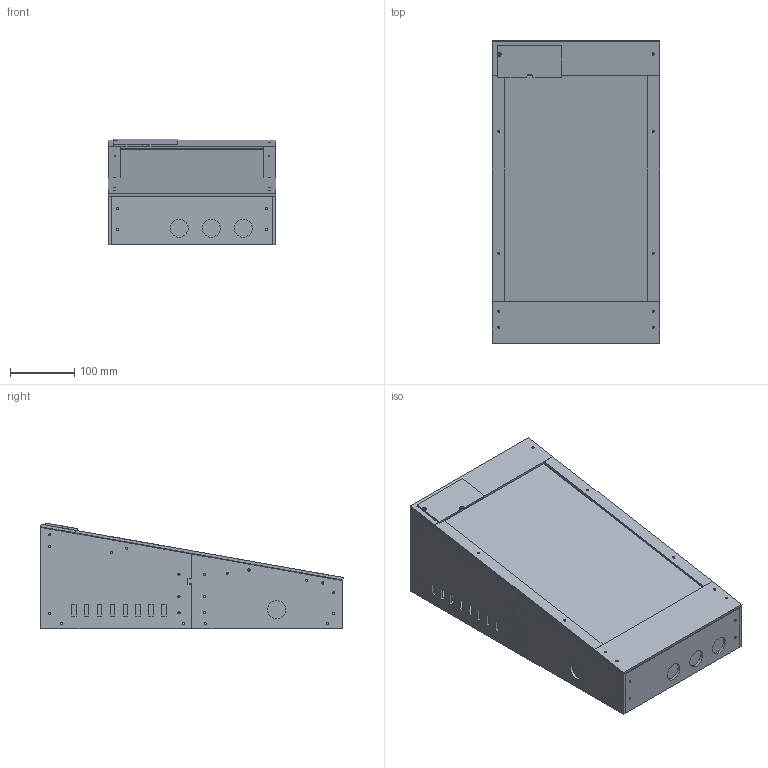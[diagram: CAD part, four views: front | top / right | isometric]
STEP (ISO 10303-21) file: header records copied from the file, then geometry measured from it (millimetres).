
FILE_DESCRIPTION(('Open CASCADE Model'),'2;1');
FILE_NAME('Open CASCADE Shape Model','2026-11-07T02:47:37',('Author'),( 'Open CASCADE'),'Open CASCADE STEP processor 7.8','Open CASCADE 7.8' ,'Unknown');
FILE_SCHEMA(('AUTOMOTIVE_DESIGN { 1 0 10303 214 1 1 1 1 }'));
Length unit declared in the file: millimetre
Products named in the file (55): Mini_VPin_Prototype_V1_7; left_front_wall; left_rear_wall; right_front_wall; right_rear_wall; front_button_panel; rear_vent_panel; corner_left_front_24; corner_left_front_56; corner_left_rear_24; corner_left_rear_128; corner_right_front_24; corner_right_front_56; corner_right_rear_24; corner_right_rear_128; splice_left; splice_right; floor_block_left_28; floor_block_left_218; floor_block_left_252; floor_block_left_442; floor_block_right_28; floor_block_right_218; floor_block_right_252; floor_block_right_442; bottom_front; bottom_rear; top_block_left_25; top_block_left_50; top_block_left_140; top_block_left_330; top_block_left_450; top_block_right_25; top_block_right_50; top_block_right_140; top_block_right_330; top_block_right_450; monitor_saddle_left_180; monitor_saddle_left_360; monitor_saddle_right_180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
Assembly tree (54 placements, depth 2):
  Mini_VPin_Prototype_V1_7
    left_front_wall
    left_rear_wall
    right_front_wall
    right_rear_wall
    front_button_panel
    rear_vent_panel
    corner_left_front_24
    corner_left_front_56
    corner_left_rear_24
    corner_left_rear_128
    corner_right_front_24
    corner_right_front_56
    corner_right_rear_24
    corner_right_rear_128
    splice_left
    splice_right
    floor_block_left_28
    floor_block_left_218
    floor_block_left_252
    floor_block_left_442
    floor_block_right_28
    floor_block_right_218
    floor_block_right_252
    floor_block_right_442
    bottom_front
    bottom_rear
    top_block_left_25
    top_block_left_50
    top_block_left_140
    top_block_left_330
    top_block_left_450
    top_block_right_25
    top_block_right_50
    top_block_right_140
    top_block_right_330
    top_block_right_450
    monitor_saddle_left_180
    monitor_saddle_left_360
    monitor_saddle_right_180
    monitor_saddle_right_360
    bezel_left_one_piece
    bezel_right_a1_a2
    front_cable_lid
    rear_control_deck
    control_hatch
    REFERENCE_monitor_12mm_envelope
    REFERENCE_PC_allowance_ports_face_front
    REFERENCE_0_front_button_110
    REFERENCE_1_front_button_160
    REFERENCE_2_front_button_210
    REFERENCE_3_left_flipper
    REFERENCE_4_right_flipper
    REFERENCE_5_central_folded_cover_reserve
    REFERENCE_6_USB_encoder_allowance
Bounding box: 260 x 470.69 x 164.59 mm (x, y, z)
Volume: 6545727.7 mm3; surface area: 1304184.8 mm2
Topology: 54 solids, 54 shells, 997 faces, 2577 edges, 1718 vertices
Faces by surface type: plane 834, cylinder 163
Full cylindrical faces by diameter (mm): 3.4 x152, 6 x2, 6.4 x2, 28 x5
Entity records: 65498 total; most frequent: CARTESIAN_POINT 11787, DIRECTION 9458, LINE 6355, VECTOR 6355, ORIENTED_EDGE 5154, PCURVE 5154, DEFINITIONAL_REPRESENTATION 5154, EDGE_CURVE 2577
